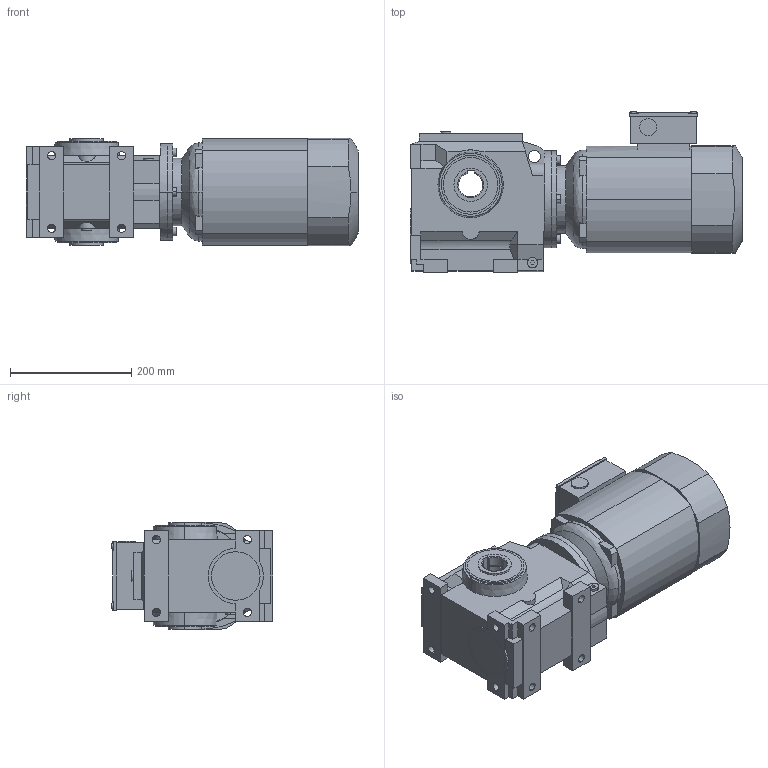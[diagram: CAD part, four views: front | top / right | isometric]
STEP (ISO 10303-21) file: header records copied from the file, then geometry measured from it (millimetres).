
FILE_DESCRIPTION(('STEP AP214'),'1');
FILE_NAME('STEP-File.stp','2018-01-01T00:00:00',(' '),('KEB'),' ','KEB-DRIVE',' ');
FILE_SCHEMA(('AUTOMOTIVE_DESIGN { 1 0 10303 214 1 1 1 1 }'));
Length unit declared in the file: millimetre
Products named in the file (10): s3a; wd_hw_40; wdh_slno; cn3; dm100_kkn; kk08; PLUG_M25; ndm100; S32A DM90SD4§CAD13
Assembly tree (9 placements, depth 2):
  S32A DM90SD4§CAD13
    s3a
    wd_hw_40
    wdh_slno
    wdh_slno
    cn3
    dm100_kkn
    kk08
    PLUG_M25
    ndm100
Bounding box: 547.5 x 266.5 x 177.4 mm (x, y, z)
Volume: 14261981 mm3; surface area: 754646.2 mm2
Topology: 9 solids, 9 shells, 508 faces, 1507 edges, 1176 vertices
Faces by surface type: plane 345, cylinder 107, cone 40, extrusion 12, torus 2, revolution 2
Entity records: 19229 total; most frequent: CARTESIAN_POINT 5790, ORIENTED_EDGE 3014, DIRECTION 2139, EDGE_CURVE 1507, VERTEX_POINT 1176, VECTOR 1128, LINE 1124, EDGE_LOOP 693
